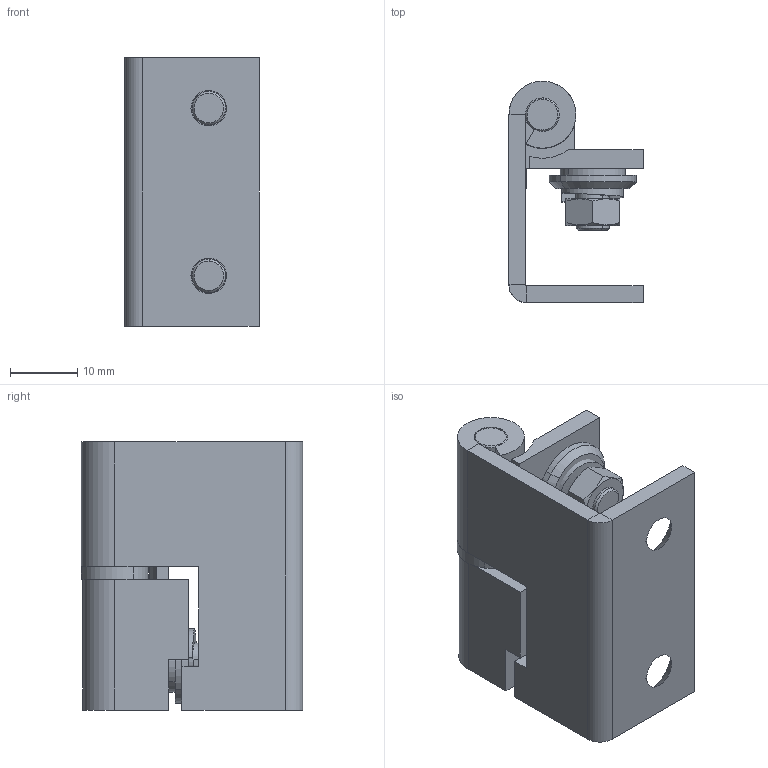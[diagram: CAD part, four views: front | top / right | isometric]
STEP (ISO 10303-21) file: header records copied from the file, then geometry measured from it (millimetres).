
FILE_DESCRIPTION (( 'STEP AP214' ), '1' );
FILE_NAME ('3.ZN140.002.STEP', '2017-10-25T17:34:07', ( '' ), ( '' ), 'SwSTEP 2.0', 'SolidWorks 2015', '' );
FILE_SCHEMA (( 'AUTOMOTIVE_DESIGN' ));
Length unit declared in the file: millimetre
Products named in the file (10): DIN 934_M5; DIN 127_M5 - ST; 3.ZN140.001.05_A; 3.ZN140.001.01.03_A; 3.ZN140.001.01.02_A; 3.ZN140.001.01.01_A; 3.ZN140.001.10_A; S-FH_M5x12; 3.ZN140.001.03_A; 3.ZN140.002
Assembly tree (13 placements, depth 3):
  3.ZN140.002
    3.ZN140.001.10_A
      3.ZN140.001.03_A
      S-FH_M5x12  x2
    3.ZN140.001.01.01_A
    3.ZN140.001.01.02_A
    3.ZN140.001.01.03_A
    3.ZN140.001.05_A  x2
    DIN 127_M5 - ST  x2
    DIN 934_M5  x2
Bounding box: 20 x 33 x 40 mm (x, y, z)
Volume: 10060.8 mm3; surface area: 9788 mm2
Topology: 12 solids, 12 shells, 304 faces, 687 edges, 443 vertices
Faces by surface type: plane 174, cylinder 88, cone 38, bspline 4
Entity records: 7158 total; most frequent: CARTESIAN_POINT 1307, DIRECTION 1186, ORIENTED_EDGE 1052, EDGE_CURVE 526, AXIS2_PLACEMENT_3D 428, VERTEX_POINT 341, LINE 330, VECTOR 330
